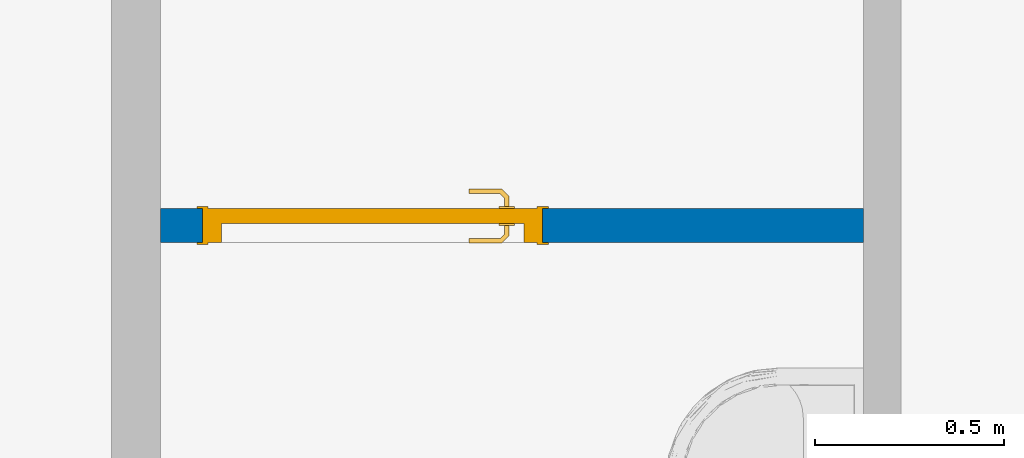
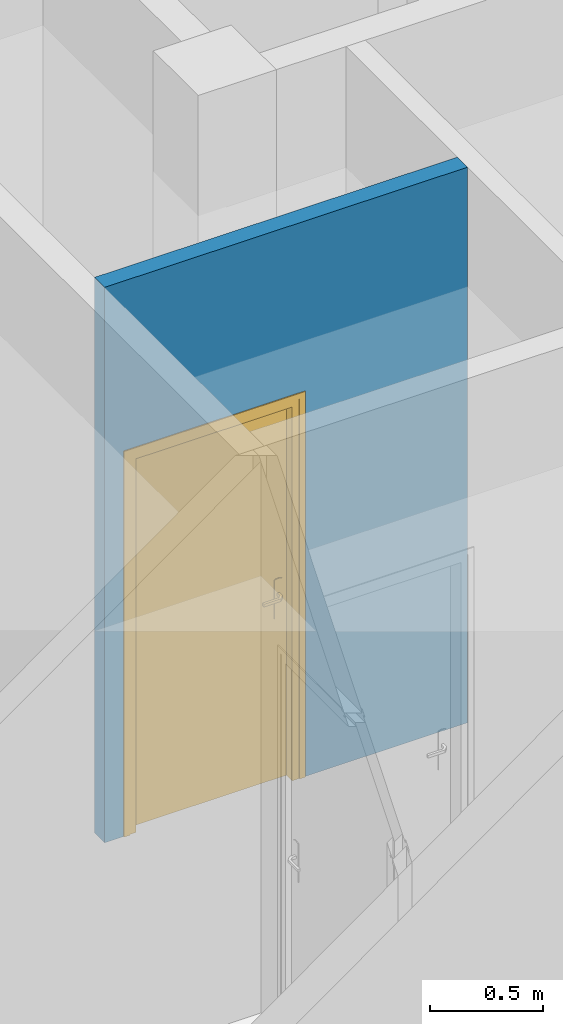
# One storey, part 42 of 97: 1 door, 1 wall, 1 opening.
"""IFC4 building model written with IfcOpenShell, lengths in metres."""

from ifc_helpers import new_model, entity, si_unit, converted_unit, derived_unit, direction, frame, origin, place, context, subcontext, project, spatial, indexed_curve, outline, extrude, polygons, source, transform, mapped, material, material_list, layer, layer_set, constituent, constituent_set, type_object, type_shapes, element, fill, save


model = new_model("IFC4")

# Units and contexts
model_context = context("Model", 3, precision=1e-05, world=origin(), true_north=direction((6.12303176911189e-17, 1.0)))
body_context = subcontext(model_context, "Body", "Model", "MODEL_VIEW")
ifc_project = project(units=[si_unit("LENGTHUNIT", "METRE"), si_unit("AREAUNIT", "SQUARE_METRE"), si_unit("VOLUMEUNIT", "CUBIC_METRE"), converted_unit("PLANEANGLEUNIT", "DEGREE", entity("IfcRatioMeasure", 0.0174532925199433), si_unit("PLANEANGLEUNIT", "RADIAN"), dimensions=[0, 0, 0, 0, 0, 0, 0]), si_unit("MASSUNIT", "GRAM", prefix="KILO"), derived_unit("MASSDENSITYUNIT", [(si_unit("MASSUNIT", "GRAM", prefix="KILO"), 1), (si_unit("LENGTHUNIT", "METRE"), -3)]), derived_unit("MOMENTOFINERTIAUNIT", [(si_unit("LENGTHUNIT", "METRE"), 4)]), si_unit("TIMEUNIT", "SECOND"), si_unit("FREQUENCYUNIT", "HERTZ"), si_unit("THERMODYNAMICTEMPERATUREUNIT", "DEGREE_CELSIUS"), derived_unit("THERMALTRANSMITTANCEUNIT", [(si_unit("MASSUNIT", "GRAM", prefix="KILO"), 1), (si_unit("THERMODYNAMICTEMPERATUREUNIT", "KELVIN"), -1), (si_unit("TIMEUNIT", "SECOND"), -3)]), derived_unit("VOLUMETRICFLOWRATEUNIT", [(si_unit("LENGTHUNIT", "METRE"), 3), (si_unit("TIMEUNIT", "SECOND"), -1)]), si_unit("ELECTRICCURRENTUNIT", "AMPERE"), si_unit("ELECTRICVOLTAGEUNIT", "VOLT"), si_unit("POWERUNIT", "WATT"), si_unit("FORCEUNIT", "NEWTON", prefix="KILO"), si_unit("ILLUMINANCEUNIT", "LUX"), si_unit("LUMINOUSFLUXUNIT", "LUMEN"), si_unit("LUMINOUSINTENSITYUNIT", "CANDELA"), derived_unit("USERDEFINED", [(si_unit("MASSUNIT", "GRAM", prefix="KILO"), -1), (si_unit("LENGTHUNIT", "METRE"), -2), (si_unit("TIMEUNIT", "SECOND"), 3), (si_unit("LUMINOUSFLUXUNIT", "LUMEN"), 1)]), derived_unit("LINEARVELOCITYUNIT", [(si_unit("LENGTHUNIT", "METRE"), 1), (si_unit("TIMEUNIT", "SECOND"), -1)]), si_unit("PRESSUREUNIT", "PASCAL"), derived_unit("USERDEFINED", [(si_unit("LENGTHUNIT", "METRE"), -2), (si_unit("MASSUNIT", "GRAM", prefix="KILO"), 1), (si_unit("TIMEUNIT", "SECOND"), -2)]), derived_unit("LINEARFORCEUNIT", [(si_unit("MASSUNIT", "GRAM", prefix="KILO"), 1), (si_unit("LENGTHUNIT", "METRE"), 1), (si_unit("TIMEUNIT", "SECOND"), -2), (si_unit("LENGTHUNIT", "METRE"), -1)]), derived_unit("PLANARFORCEUNIT", [(si_unit("MASSUNIT", "GRAM", prefix="KILO"), 1), (si_unit("LENGTHUNIT", "METRE"), 1), (si_unit("TIMEUNIT", "SECOND"), -2), (si_unit("LENGTHUNIT", "METRE"), -2)])], contexts=[model_context])

# Site, building, storey
site_placement = place(None, origin())
site = spatial("IfcSite", under=ifc_project, at=site_placement, Name="Default", CompositionType="ELEMENT")
building_placement = place(site_placement, origin())
building = spatial("IfcBuilding", under=site, at=building_placement, Name="HOTEL CONSULAIRE BOULOGNE SUR MER", CompositionType="ELEMENT")
storey_placement = place(building_placement, frame((0.0, 0.0, 3.62152697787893)))
storey = spatial("IfcBuildingStorey", under=building, at=storey_placement, Name="Niveau 1", CompositionType="ELEMENT", Elevation=3.62152697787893)

# Wall, opening, door
ifc_material_1 = material(Name="Mur par défaut", Category="Divers")
ifc_layer = layer(ifc_material_1, 0.09, Name="Mur par défaut", Category="Divers")
ifc_layer_set = layer_set([ifc_layer], Name="Mur de base:Générique - Int. 90")
wall_type = type_object("IfcWallType", Name="Mur de base:Générique - Int. 90", PredefinedType="NOTDEFINED", material=ifc_layer_set)
wall_placement = place(storey_placement, frame((-0.670980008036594, -21.0628560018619, 0.0), z_axis=(0.0, 0.0, 1.0), x_axis=(-1.0, 0.0, 0.0)))
wall = element("IfcWall", 1, at=wall_placement, inside=storey, type_object=wall_type, material=ifc_layer_set, Name="Mur de base:Générique - Int. 90", ObjectType="Mur de base:Générique - Int. 90", PredefinedType="NOTDEFINED", context=body_context, shape_type="Tessellation", body=[
    polygons([(1.85954867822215, -0.0450000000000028, 0.0), (1.74854867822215, -0.0450000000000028, 0.0), (1.74854867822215, 0.0449999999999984, 0.0), (1.85954867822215, 0.0449999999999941, 0.0), (1.85954867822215, -0.0450000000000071, 3.01021454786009), (2.59394807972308e-16, -0.0450000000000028, 3.01021454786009), (2.59394807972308e-16, -0.0450000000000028, 0.0), (0.84854867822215, -0.0450000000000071, 0.0), (0.84854867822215, -0.0450000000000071, 2.075), (1.74854867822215, -0.0450000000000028, 2.075), (5.79486625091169e-17, 0.0449999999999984, 3.01021454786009), (1.85954867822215, 0.0449999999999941, 3.01021454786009), (1.74854867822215, 0.0449999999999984, 2.075), (0.84854867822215, 0.0449999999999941, 2.075), (0.84854867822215, 0.0449999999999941, 0.0), (-7.74097286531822e-17, 0.0449999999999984, 0.0)], [[[2, 3, 4, 1]], [[14, 13, 10, 9]], [[8, 7, 16, 15]], [[7, 8, 9, 10, 2, 1, 5, 6]], [[4, 3, 13, 14, 15, 16, 11, 12]], [[6, 5, 12, 11]], [[1, 4, 12, 5]], [[15, 14, 9, 8]], [[16, 7, 6, 11]], [[13, 3, 2, 10]]], closed=True),
])
opening_placement = place(wall_placement, frame((1.74854867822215, 0.0450000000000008, 0.0)))
opening = element("IfcOpeningElement", 2, at=opening_placement, cuts=wall, Name="Int. Simple:PP (0.83m x 2.04m):1", ObjectType="Opening", PredefinedType="OPENING", context=body_context, shape_type="SweptSolid", body=[
    extrude(outline(indexed_curve([(0.0, 0.0), (2.075, 0.0), (2.075, 0.9), (0.0, 0.9), (0.0, 0.0)], self_intersect=False)), frame((0.0, 0.0, 0.0), z_axis=(0.0, -1.0, 0.0), x_axis=(0.0, 0.0, 1.0)), (0.0, 0.0, 1.0), 0.09),
])
ifc_material_2 = material(Name="Finition Peinture - Blanc satiné", Category="Peinture")
ifc_constituent_1 = constituent(ifc_material_2, Name="Finition Peinture - Blanc satiné", Category="Matériaux")
ifc_material_3 = material(Name="Bois - Panneau de porte", Category="Bois")
ifc_constituent_2 = constituent(ifc_material_3, Name="Bois - Panneau de porte", Category="Matériaux")
ifc_material_4 = material(Name="Bois - Cadre de porte", Category="Bois")
ifc_constituent_3 = constituent(ifc_material_4, Name="Bois - Cadre de porte", Category="Matériaux")
ifc_constituent_set = constituent_set(constituents=[ifc_constituent_1, ifc_constituent_2, ifc_constituent_3], Name="MaterialConstituentSet")
ifc_material_list = material_list([ifc_material_4, ifc_material_3, ifc_material_4, ifc_material_2])
door_type = type_object("IfcDoorType", Name="Int. Simple:PP (0.83m x 2.04m)", OperationType="NOTDEFINED", PredefinedType="DOOR", material=ifc_material_list)
shared_shape = source(origin(), body_context, "Body", "Tessellation", [
    polygons([(0.0750000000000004, -0.00500000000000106, 0.870000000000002), (0.0846472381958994, -0.00500000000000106, 0.866003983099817), (0.0950000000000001, -0.00500000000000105, 0.86464101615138), (0.105352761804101, -0.00500000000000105, 0.866003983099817), (0.115, -0.00500000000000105, 0.870000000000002), (0.114999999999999, -0.00500000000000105, 1.08), (0.1053527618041, -0.00500000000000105, 1.08399601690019), (0.094999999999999, -0.00500000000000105, 1.08535898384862), (0.0846472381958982, -0.00500000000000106, 1.08399601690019), (0.0749999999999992, -0.00500000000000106, 1.08), (0.0749999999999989, -1.06594733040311e-15, 0.870000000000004), (0.0749999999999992, -1.06594733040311e-15, 1.08), (0.0846472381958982, -1.06594733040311e-15, 1.08399601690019), (0.094999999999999, -1.05748743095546e-15, 1.08535898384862), (0.1053527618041, -1.05748743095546e-15, 1.08399601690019), (0.114999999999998, -1.04902753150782e-15, 1.08), (0.115, -1.04902753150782e-15, 0.870000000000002), (0.105352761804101, -1.05748743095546e-15, 0.866003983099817), (0.0950000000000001, -1.05748743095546e-15, 0.86464101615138), (0.0846472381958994, -1.06594733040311e-15, 0.866003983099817)], [[[4, 5, 6, 7, 8, 9, 10, 1, 2, 3]], [[15, 16, 17, 18, 19, 20, 11, 12, 13, 14]], [[11, 20, 2, 1]], [[2, 20, 19, 3]], [[19, 18, 4, 3]], [[18, 17, 5, 4]], [[6, 5, 17, 16]], [[16, 15, 7, 6]], [[7, 15, 14, 8]], [[14, 13, 9, 8]], [[13, 12, 10, 9]], [[1, 10, 12, 11]]], closed=True),
    polygons([(0.114999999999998, 0.0399999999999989, 1.08), (0.105352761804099, 0.0399999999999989, 1.08399601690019), (0.0949999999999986, 0.0399999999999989, 1.08535898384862), (0.084647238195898, 0.0399999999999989, 1.08399601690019), (0.0749999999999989, 0.0399999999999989, 1.08), (0.0750000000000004, 0.0399999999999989, 0.870000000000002), (0.0846472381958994, 0.0399999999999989, 0.866003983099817), (0.0950000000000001, 0.0399999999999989, 0.86464101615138), (0.105352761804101, 0.0399999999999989, 0.866003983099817), (0.115, 0.0399999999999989, 0.870000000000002), (0.114999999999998, 0.0449999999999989, 1.08), (0.115, 0.0449999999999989, 0.870000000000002), (0.105352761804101, 0.0449999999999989, 0.866003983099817), (0.0950000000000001, 0.0449999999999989, 0.86464101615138), (0.0846472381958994, 0.0449999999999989, 0.866003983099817), (0.0749999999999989, 0.0449999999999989, 0.870000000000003), (0.0749999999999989, 0.0449999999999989, 1.08), (0.084647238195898, 0.0449999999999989, 1.08399601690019), (0.0949999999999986, 0.0449999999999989, 1.08535898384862), (0.105352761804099, 0.0449999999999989, 1.08399601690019)], [[[9, 10, 1, 2, 3, 4, 5, 6, 7, 8]], [[20, 11, 12, 13, 14, 15, 16, 17, 18, 19]], [[11, 20, 2, 1]], [[2, 20, 19, 3]], [[19, 18, 4, 3]], [[18, 17, 5, 4]], [[6, 5, 17, 16]], [[16, 15, 7, 6]], [[7, 15, 14, 8]], [[14, 13, 9, 8]], [[13, 12, 10, 9]], [[1, 10, 12, 11]]], closed=True),
    polygons([(0.0889999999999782, -0.00500000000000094, 1.007), (0.0929747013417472, -0.00500000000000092, 1.00778044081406), (0.0970252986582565, -0.0050000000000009, 1.00778044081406), (0.101000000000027, -0.00500000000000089, 1.00699999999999), (0.101000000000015, -0.00500000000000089, 0.993000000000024), (0.0970252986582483, -0.0050000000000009, 0.992219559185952), (0.0929747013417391, -0.00500000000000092, 0.99221955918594), (0.0889999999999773, -0.00500000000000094, 0.992999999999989), (0.0889999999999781, -0.0326509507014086, 1.007), (0.092974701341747, -0.0310045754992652, 1.00778044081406), (0.0970252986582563, -0.0293267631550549, 1.00778044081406), (0.101000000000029, -0.0276803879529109, 1.007), (0.101000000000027, -0.0276803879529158, 0.993000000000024), (0.0970252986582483, -0.0293267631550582, 0.992219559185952), (0.0929747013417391, -0.0310045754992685, 0.99221955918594), (0.0889999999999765, -0.0326509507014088, 0.992999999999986), (0.107377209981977, -0.0510281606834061, 1.007), (0.10902358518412, -0.0470534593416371, 1.00778044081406), (0.110701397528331, -0.0430028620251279, 1.00778044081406), (0.112347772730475, -0.0390281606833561, 1.007), (0.112347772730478, -0.0390281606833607, 0.993000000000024), (0.110701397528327, -0.0430028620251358, 0.992219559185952), (0.109023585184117, -0.047053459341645, 0.99221955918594), (0.107377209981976, -0.0510281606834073, 0.992999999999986), (0.195018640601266, -0.0510281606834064, 1.00699999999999), (0.195018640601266, -0.0510281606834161, 0.992999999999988), (0.195018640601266, -0.0470534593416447, 0.99221955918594), (0.195018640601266, -0.0430028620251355, 0.992219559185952), (0.195018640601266, -0.039028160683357, 0.993000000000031), (0.195018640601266, -0.0390281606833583, 1.007), (0.195018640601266, -0.0430028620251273, 1.00778044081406), (0.195018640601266, -0.0470534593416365, 1.00778044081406), (0.147307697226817, -0.0510281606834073, 1.007), (0.152860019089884, -0.045028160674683, 1.0078786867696), (0.15368320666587, -0.039028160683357, 1.007), (0.147307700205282, -0.0510281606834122, 0.992999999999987), (0.152860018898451, -0.0450281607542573, 0.992121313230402), (0.153683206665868, -0.039028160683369, 0.993000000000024)], [[[2, 3, 4, 5, 6, 7, 8, 1]], [[21, 20, 35, 30, 29, 38]], [[9, 10, 2, 1]], [[10, 18, 19, 11, 3, 2]], [[11, 12, 4, 3]], [[5, 4, 12, 13]], [[26, 27, 28, 29, 30, 31, 32, 25]], [[13, 14, 6, 5]], [[14, 22, 23, 15, 7, 6]], [[15, 16, 8, 7]], [[1, 8, 16, 9]], [[17, 18, 10, 9]], [[19, 20, 12, 11]], [[13, 12, 20, 21]], [[21, 22, 14, 13]], [[23, 24, 16, 15]], [[9, 16, 24, 17]], [[33, 32, 34]], [[25, 32, 33]], [[18, 17, 33]], [[34, 35, 19]], [[20, 19, 35]], [[35, 31, 30]], [[32, 31, 34]], [[31, 35, 34]], [[18, 33, 34]], [[18, 34, 19]], [[38, 28, 37]], [[36, 37, 27]], [[21, 38, 22]], [[38, 29, 28]], [[26, 36, 27]], [[24, 23, 36]], [[36, 23, 37]], [[23, 22, 37]], [[22, 38, 37]], [[27, 37, 28]], [[17, 24, 36, 26, 25, 33]]], closed=True),
    polygons([(0.10100000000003, 0.0449999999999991, 0.993000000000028), (0.101000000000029, 0.0449999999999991, 1.007), (0.0970252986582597, 0.0449999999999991, 1.00778044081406), (0.0929747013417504, 0.0449999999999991, 1.00778044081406), (0.0889999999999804, 0.044999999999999, 1.007), (0.0889999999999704, 0.044999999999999, 0.992999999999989), (0.0929747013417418, 0.0449999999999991, 0.99221955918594), (0.0970252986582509, 0.0449999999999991, 0.992219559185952), (0.10100000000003, 0.067485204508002, 0.993000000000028), (0.10100000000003, 0.0674852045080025, 1.007), (0.0970252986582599, 0.0691315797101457, 1.00778044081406), (0.0929747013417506, 0.070809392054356, 1.00778044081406), (0.0889999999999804, 0.0724557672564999, 1.007), (0.0889999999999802, 0.072455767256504, 0.992999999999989), (0.0929747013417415, 0.0708093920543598, 0.99221955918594), (0.0970252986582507, 0.0691315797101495, 0.992219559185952), (0.112485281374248, 0.0789704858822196, 0.993000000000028), (0.112485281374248, 0.0789704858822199, 1.007), (0.110838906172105, 0.0829451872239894, 1.00778044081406), (0.109161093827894, 0.0869957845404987, 1.00778044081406), (0.107514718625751, 0.0909704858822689, 1.007), (0.107514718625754, 0.090970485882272, 0.992999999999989), (0.109161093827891, 0.0869957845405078, 0.99221955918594), (0.110838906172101, 0.0829451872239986, 0.992219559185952), (0.195045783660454, 0.0789704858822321, 0.993000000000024), (0.195045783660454, 0.0829451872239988, 0.992219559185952), (0.195045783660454, 0.086995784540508, 0.99221955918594), (0.195045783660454, 0.0909704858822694, 0.992999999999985), (0.195045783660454, 0.0909704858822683, 1.007), (0.195045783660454, 0.0869957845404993, 1.00778044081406), (0.195045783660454, 0.0829451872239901, 1.00778044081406), (0.195045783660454, 0.0789704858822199, 1.007), (0.147445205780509, 0.0909704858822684, 1.007), (0.152942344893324, 0.0849704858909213, 1.0078786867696), (0.153765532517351, 0.0789704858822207, 1.007), (0.147445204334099, 0.0909704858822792, 0.992999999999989), (0.152942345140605, 0.0849704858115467, 0.992121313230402), (0.153765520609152, 0.0789704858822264, 0.993000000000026)], [[[4, 5, 6, 7, 8, 1, 2, 3]], [[18, 17, 38, 25, 32, 35]], [[2, 1, 9, 10]], [[25, 26, 27, 28, 29, 30, 31, 32]], [[10, 11, 3, 2]], [[11, 19, 20, 12, 4, 3]], [[12, 13, 5, 4]], [[6, 5, 13, 14]], [[14, 15, 7, 6]], [[15, 23, 24, 16, 8, 7]], [[16, 9, 1, 8]], [[10, 9, 17, 18]], [[18, 19, 11, 10]], [[20, 21, 13, 12]], [[14, 13, 21, 22]], [[22, 23, 15, 14]], [[24, 17, 9, 16]], [[35, 31, 34]], [[33, 34, 30]], [[18, 35, 19]], [[35, 32, 31]], [[29, 33, 30]], [[21, 20, 33]], [[33, 20, 34]], [[20, 19, 34]], [[19, 35, 34]], [[30, 34, 31]], [[21, 33, 29, 28, 36, 22]], [[36, 27, 37]], [[28, 27, 36]], [[23, 22, 36]], [[37, 38, 24]], [[17, 24, 38]], [[38, 26, 25]], [[27, 26, 37]], [[26, 38, 37]], [[23, 36, 37]], [[23, 37, 24]]], closed=True),
    polygons([(0.034999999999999, 0.04, 2.04), (0.865, 0.04, 2.04), (0.864999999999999, 0.04, 0.0), (0.034999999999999, 0.04, 0.0), (0.034999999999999, 3.38395977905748e-17, 2.04), (0.034999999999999, 3.38395977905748e-17, 0.0), (0.864999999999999, 3.38395977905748e-17, 0.0), (0.865, 3.38395977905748e-17, 2.04)], [[[4, 1, 2, 3]], [[7, 8, 5, 6]], [[2, 1, 5, 8]], [[3, 2, 8, 7]], [[4, 3, 7, 6]], [[1, 4, 6, 5]]], closed=True),
    polygons([(-1.54308565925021e-14, 8.45989944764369e-18, 0.0), (-1.54308565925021e-14, 0.090000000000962, 0.0), (0.0499999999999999, 0.090000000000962, 0.0), (0.0499999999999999, 0.0400000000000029, 0.0), (0.0349999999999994, 0.0400000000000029, 0.0), (0.0349999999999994, 8.45989944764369e-18, 0.0), (-1.53631773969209e-14, 8.45989944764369e-18, 2.07500000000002), (-1.53631773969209e-14, 0.090000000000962, 2.07500000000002), (0.900000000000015, 0.090000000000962, 2.07500000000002), (0.900000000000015, 0.090000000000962, 9.23443718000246e-25), (0.85, 0.090000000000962, 6.02669015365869e-24), (0.85, 0.090000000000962, 2.025), (0.05, 0.090000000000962, 2.025), (0.05, 0.0400000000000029, 2.025), (0.85, 0.0400000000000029, 2.025), (0.85, 0.0400000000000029, 1.99209609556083e-25), (0.865, 0.0400000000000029, 1.51399294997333e-24), (0.865000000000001, 0.0400000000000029, 2.04), (0.0349999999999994, 0.0400000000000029, 2.04), (0.0349999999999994, 8.45989944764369e-18, 2.04), (0.865, 8.45989944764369e-18, 2.04), (0.865, 8.45989944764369e-18, 3.40121094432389e-24), (0.900000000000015, 8.45989944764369e-18, 1.81925185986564e-24), (0.900000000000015, 8.45989944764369e-18, 2.07500000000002)], [[[5, 6, 1, 2, 3, 4]], [[11, 10, 23, 22, 17, 16]], [[14, 13, 12, 15]], [[20, 19, 18, 21]], [[2, 1, 7, 8]], [[15, 12, 11, 16]], [[21, 18, 17, 22]], [[3, 2, 8, 9, 10, 11, 12, 13]], [[4, 3, 13, 14]], [[6, 5, 19, 20]], [[9, 24, 23, 10]], [[16, 17, 18, 19, 5, 4, 14, 15]], [[22, 23, 24, 7, 1, 6, 20, 21]], [[8, 7, 24, 9]]], closed=True),
    polygons([(0.0149999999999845, 0.090000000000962, 1.35358391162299e-16), (-0.0150000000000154, 0.090000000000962, 1.35358391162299e-16), (-0.0150000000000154, 0.095000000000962, 1.35358391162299e-16), (0.0149999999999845, 0.095000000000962, 1.35358391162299e-16), (0.0149999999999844, 0.090000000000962, 2.06000000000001), (0.884999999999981, 0.090000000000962, 2.06000000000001), (0.88499999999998, 0.090000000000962, 5.09144897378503e-24), (0.91499999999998, 0.090000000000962, -5.44393448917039e-24), (0.91499999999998, 0.090000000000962, 2.09000000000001), (-0.0150000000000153, 0.090000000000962, 2.09000000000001), (-0.0150000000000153, 0.095000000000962, 2.09000000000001), (0.91499999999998, 0.095000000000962, 2.09000000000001), (0.91499999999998, 0.095000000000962, 5.03766794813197e-24), (0.88499999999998, 0.095000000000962, -1.89153776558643e-24), (0.88499999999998, 0.095000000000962, 2.06000000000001), (0.0149999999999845, 0.095000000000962, 2.06000000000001)], [[[1, 2, 3, 4]], [[14, 13, 8, 7]], [[5, 16, 15, 6]], [[7, 8, 9, 10, 2, 1, 5, 6]], [[3, 2, 10, 11]], [[6, 15, 14, 7]], [[4, 3, 11, 12, 13, 14, 15, 16]], [[1, 4, 16, 5]], [[12, 9, 8, 13]], [[11, 10, 9, 12]]], closed=True),
    polygons([(0.0149999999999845, -0.00500000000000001, 1.35358391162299e-16), (-0.0150000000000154, -0.00500000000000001, 1.35358391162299e-16), (-0.0150000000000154, 8.45989944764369e-18, 1.35358391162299e-16), (0.0149999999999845, 8.45989944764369e-18, 1.35358391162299e-16), (0.88499999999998, -0.00500000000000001, -1.35358391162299e-16), (0.88499999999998, 8.45989944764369e-18, -1.35358391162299e-16), (0.91499999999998, 8.45989944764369e-18, -1.35358391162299e-16), (0.91499999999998, -0.00500000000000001, -1.35358391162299e-16), (0.0149999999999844, -0.00500000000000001, 2.06000000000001), (0.884999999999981, -0.00500000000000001, 2.06000000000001), (0.91499999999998, -0.00500000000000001, 2.09000000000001), (-0.0150000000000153, -0.00500000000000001, 2.09000000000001), (-0.0150000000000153, 8.45989944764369e-18, 2.09000000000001), (0.91499999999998, 8.45989944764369e-18, 2.09000000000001), (0.88499999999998, 8.45989944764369e-18, 2.06000000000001), (0.0149999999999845, 8.45989944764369e-18, 2.06000000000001)], [[[1, 2, 3, 4]], [[6, 7, 8, 5]], [[9, 16, 15, 10]], [[5, 8, 11, 12, 2, 1, 9, 10]], [[3, 2, 12, 13]], [[10, 15, 6, 5]], [[4, 3, 13, 14, 7, 6, 15, 16]], [[1, 4, 16, 9]], [[14, 11, 8, 7]], [[13, 12, 11, 14]]], closed=True),
])
type_shapes(door_type, [shared_shape])
door_placement = place(opening_placement, frame((-0.9, -0.0900000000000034, 0.0)))
door = element("IfcDoor", 3, at=door_placement, inside=storey, type_object=door_type, material=ifc_constituent_set, Name="Int. Simple:PP (0.83m x 2.04m)", ObjectType="Int. Simple:PP (0.83m x 2.04m)", OperationType="NOTDEFINED", OverallHeight=2.075, OverallWidth=0.9, PredefinedType="DOOR", context=body_context, shape_type="MappedRepresentation", body=[
    mapped(shared_shape, transform((0.0, 0.0, 0.0), scale=1.0)),
])
fill(opening, door)

save(model, "model.ifc")
